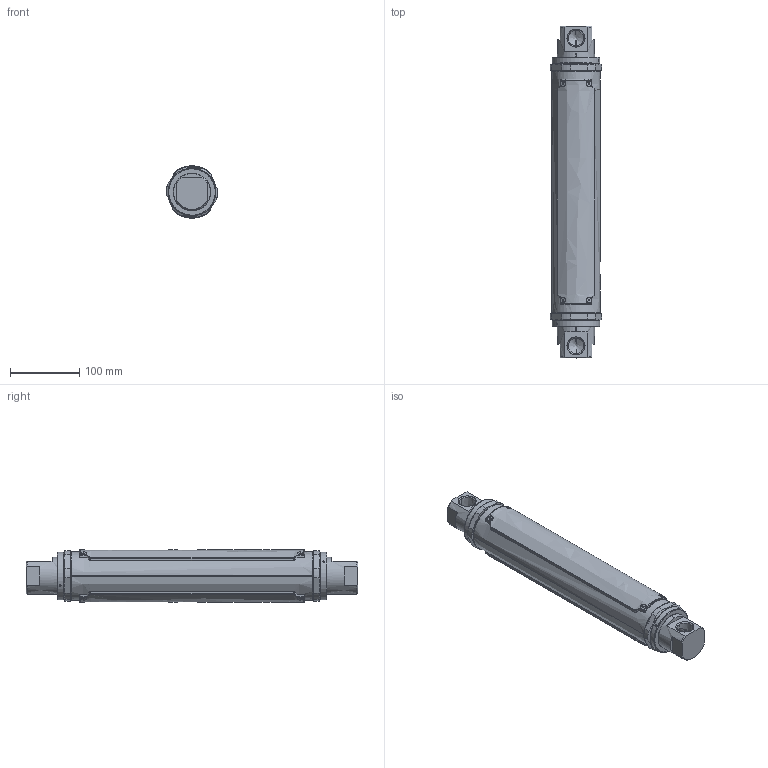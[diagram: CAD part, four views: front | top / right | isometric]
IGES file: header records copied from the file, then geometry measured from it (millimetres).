
Start section: SolidWorks IGES file using analytic representation for surfaces
Global section: file name: G:\Engineering\CAD MODELS FOR SALES\CAD MODEL STORAGE\GT1600\CUSTOMER FILES\IGES\1610-MC-3-AA-0-0.IGS; native system: SolidWorks 2020; preprocessor: SolidWorks 2020; author: CRaksin; date: 230412.112541; units: inch
Bounding box: 73.98 x 479.2 x 75.5 mm (x, y, z)
Surface area: 383914.8 mm2 (no closed solid volume)
Topology: 0 solids, 0 shells, 1143 faces, 14624 edges, 14620 vertices
Faces by surface type: bspline 738, revolution 405
